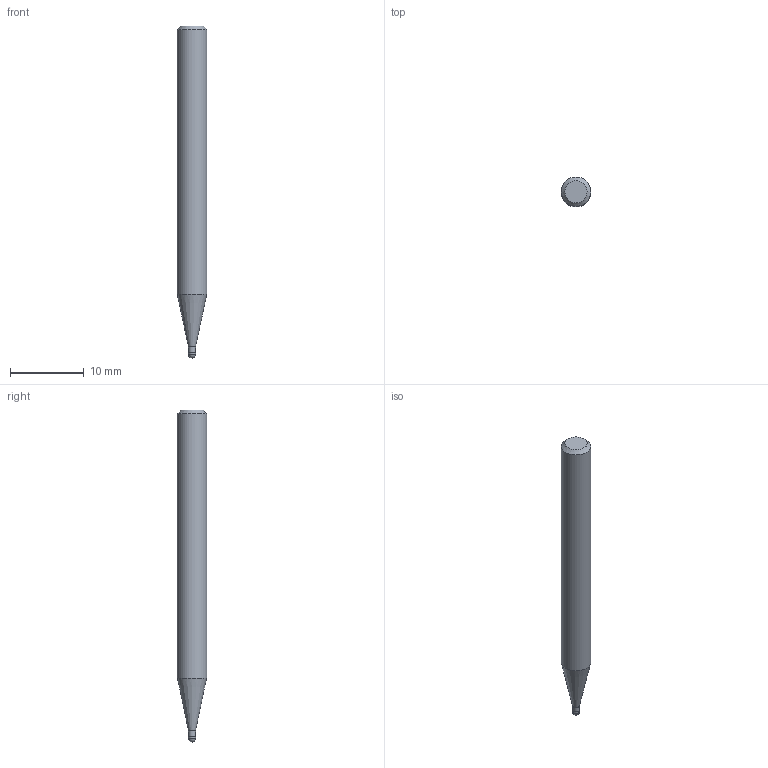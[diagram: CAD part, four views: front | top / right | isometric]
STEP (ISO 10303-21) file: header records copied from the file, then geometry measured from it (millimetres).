
FILE_DESCRIPTION((''),'2;1');
FILE_NAME('C:\Users\nsx150\AppData\Local\Temp\Mastercam 2021\ARV7HD45SN\TEMP.step','2023-06-13T16:35:15',(''),(''),'STEP Write','Mastercam 2021 ... CNC Software, Inc.','');
FILE_SCHEMA(('AUTOMOTIVE_DESIGN'));
Length unit declared in the file: millimetre
Products named in the file (1): None
Bounding box: 4 x 4 x 45 mm (x, y, z)
Volume: 494.9 mm3; surface area: 528.2 mm2
Topology: 2 solids, 2 shells, 9 faces, 14 edges, 8 vertices
Faces by surface type: plane 3, cylinder 3, cone 2, sphere 1
Full cylindrical faces by diameter (mm): 0.95 x1, 1 x1, 4 x1
Entity records: 211 total; most frequent: DIRECTION 36, CARTESIAN_POINT 25, AXIS2_PLACEMENT_3D 18, ORIENTED_EDGE 14, EDGE_LOOP 14, STYLED_ITEM 12, ADVANCED_FACE 9, FACE_BOUND 8
